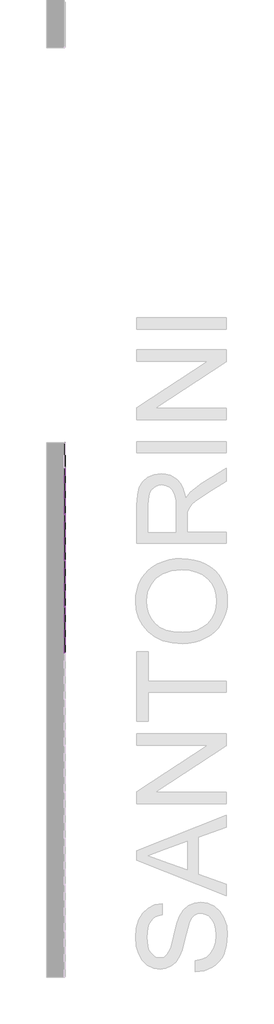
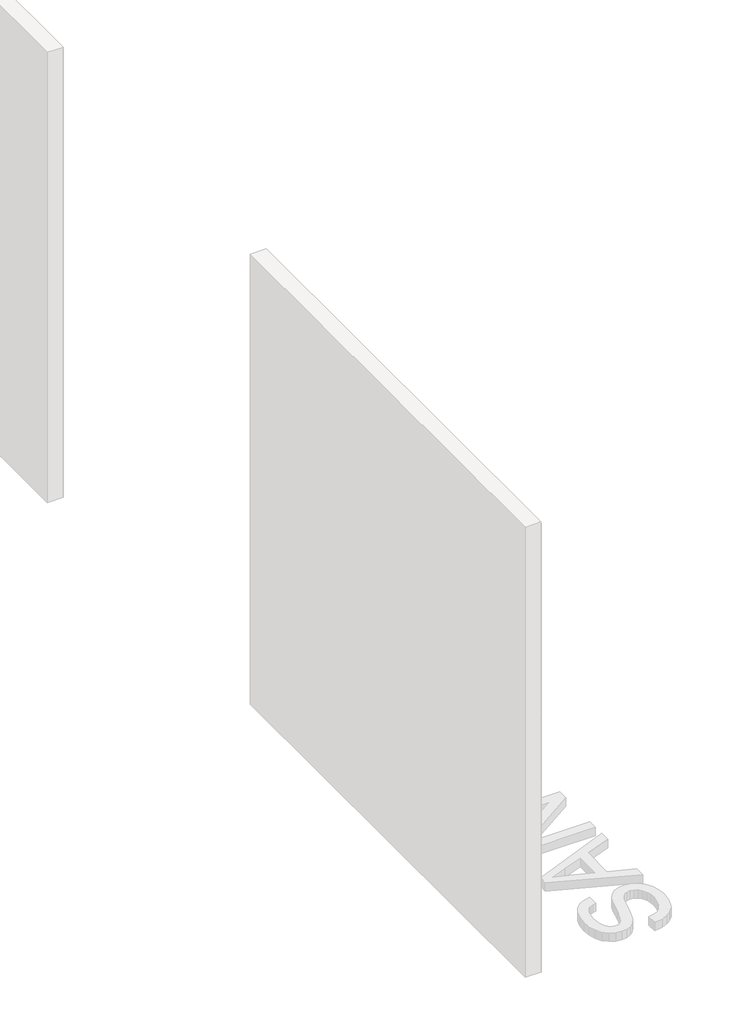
# One storey, part 32 of 45: 147 proxies.
"""IFC4 building model written with IfcOpenShell, lengths in millimetres."""

from ifc_helpers import new_model, si_unit, origin, place, context, project, spatial, transform, mapped, element, save
from components import generic_models_ab0f2c30, generic_models_1527efce

model = new_model("IFC4")

# Units and contexts
model_context = context("Model", 3, world=origin())
ifc_project = project(units=[si_unit("LENGTHUNIT", "METRE", prefix="MILLI")], contexts=[model_context])

# Site, building, storey
site = spatial("IfcSite", under=ifc_project)
building = spatial("IfcBuilding", under=site)
storey = spatial("IfcBuildingStorey", under=building, Name="PORTOBELLO - SHOWROOM", Elevation=0.0)

# Proxies
placement = place(None, origin())
generic_models_shape = generic_models_ab0f2c30(model_context)
element("IfcBuildingElementProxy", 1, Name="PBSHOP - HORIZONTES SANTORINI 6,5X23 : SANTORINI", ObjectType="PBSHOP - HORIZONTES SANTORINI 6,5X23 : SANTORINI", at=placement, inside=storey, context=model_context, shape_type="MappedRepresentation", body=[
    mapped(generic_models_shape, transform((69111.8826867, 12364.0312463, 517.5), x_axis=(0.0, 0.0, 1.0), y_axis=(0.0, -1.0, 0.0), z_axis=(1.0, 0.0, 0.0))),
])
element("IfcBuildingElementProxy", 2, Name="PBSHOP - HORIZONTES SANTORINI 6,5X23 : SANTORINI", ObjectType="PBSHOP - HORIZONTES SANTORINI 6,5X23 : SANTORINI", at=placement, inside=storey, context=model_context, shape_type="MappedRepresentation", body=[
    mapped(generic_models_shape, transform((69111.8826867, 12598.0312463, 517.5), x_axis=(0.0, 0.0, 1.0), y_axis=(0.0, -1.0, 0.0), z_axis=(1.0, 0.0, 0.0))),
])
element("IfcBuildingElementProxy", 3, Name="PBSHOP - HORIZONTES SANTORINI 6,5X23 : SANTORINI", ObjectType="PBSHOP - HORIZONTES SANTORINI 6,5X23 : SANTORINI", at=placement, inside=storey, context=model_context, shape_type="MappedRepresentation", body=[
    mapped(generic_models_shape, transform((69111.8826867, 12832.0312463, 517.5), x_axis=(0.0, 0.0, 1.0), y_axis=(0.0, -1.0, 0.0), z_axis=(1.0, 0.0, 0.0))),
])
element("IfcBuildingElementProxy", 4, Name="PBSHOP - HORIZONTES SANTORINI 6,5X23 : SANTORINI", ObjectType="PBSHOP - HORIZONTES SANTORINI 6,5X23 : SANTORINI", at=placement, inside=storey, context=model_context, shape_type="MappedRepresentation", body=[
    mapped(generic_models_shape, transform((69111.8826867, 12130.0312463, 586.5), x_axis=(0.0, 0.0, 1.0), y_axis=(0.0, -1.0, 0.0), z_axis=(1.0, 0.0, 0.0))),
])
element("IfcBuildingElementProxy", 5, Name="PBSHOP - HORIZONTES SANTORINI 6,5X23 : SANTORINI", ObjectType="PBSHOP - HORIZONTES SANTORINI 6,5X23 : SANTORINI", at=placement, inside=storey, context=model_context, shape_type="MappedRepresentation", body=[
    mapped(generic_models_shape, transform((69111.8826867, 12364.0312463, 586.5), x_axis=(0.0, 0.0, 1.0), y_axis=(0.0, -1.0, 0.0), z_axis=(1.0, 0.0, 0.0))),
])
element("IfcBuildingElementProxy", 6, Name="PBSHOP - HORIZONTES SANTORINI 6,5X23 : SANTORINI", ObjectType="PBSHOP - HORIZONTES SANTORINI 6,5X23 : SANTORINI", at=placement, inside=storey, context=model_context, shape_type="MappedRepresentation", body=[
    mapped(generic_models_shape, transform((69111.8826867, 12598.0312463, 586.5), x_axis=(0.0, 0.0, 1.0), y_axis=(0.0, -1.0, 0.0), z_axis=(1.0, 0.0, 0.0))),
])
element("IfcBuildingElementProxy", 7, Name="PBSHOP - HORIZONTES SANTORINI 6,5X23 : SANTORINI", ObjectType="PBSHOP - HORIZONTES SANTORINI 6,5X23 : SANTORINI", at=placement, inside=storey, context=model_context, shape_type="MappedRepresentation", body=[
    mapped(generic_models_shape, transform((69111.8826867, 12832.0312463, 586.5), x_axis=(0.0, 0.0, 1.0), y_axis=(0.0, -1.0, 0.0), z_axis=(1.0, 0.0, 0.0))),
])
element("IfcBuildingElementProxy", 8, Name="PBSHOP - HORIZONTES SANTORINI 6,5X23 : SANTORINI", ObjectType="PBSHOP - HORIZONTES SANTORINI 6,5X23 : SANTORINI", at=placement, inside=storey, context=model_context, shape_type="MappedRepresentation", body=[
    mapped(generic_models_shape, transform((69111.8826867, 12130.0312463, 655.5), x_axis=(0.0, 0.0, 1.0), y_axis=(0.0, -1.0, 0.0), z_axis=(1.0, 0.0, 0.0))),
])
element("IfcBuildingElementProxy", 9, Name="PBSHOP - HORIZONTES SANTORINI 6,5X23 : SANTORINI", ObjectType="PBSHOP - HORIZONTES SANTORINI 6,5X23 : SANTORINI", at=placement, inside=storey, context=model_context, shape_type="MappedRepresentation", body=[
    mapped(generic_models_shape, transform((69111.8826867, 12364.0312463, 655.5), x_axis=(0.0, 0.0, 1.0), y_axis=(0.0, -1.0, 0.0), z_axis=(1.0, 0.0, 0.0))),
])
element("IfcBuildingElementProxy", 10, Name="PBSHOP - HORIZONTES SANTORINI 6,5X23 : SANTORINI", ObjectType="PBSHOP - HORIZONTES SANTORINI 6,5X23 : SANTORINI", at=placement, inside=storey, context=model_context, shape_type="MappedRepresentation", body=[
    mapped(generic_models_shape, transform((69111.8826867, 12598.0312463, 655.5), x_axis=(0.0, 0.0, 1.0), y_axis=(0.0, -1.0, 0.0), z_axis=(1.0, 0.0, 0.0))),
])
element("IfcBuildingElementProxy", 11, Name="PBSHOP - HORIZONTES SANTORINI 6,5X23 : SANTORINI", ObjectType="PBSHOP - HORIZONTES SANTORINI 6,5X23 : SANTORINI", at=placement, inside=storey, context=model_context, shape_type="MappedRepresentation", body=[
    mapped(generic_models_shape, transform((69111.8826867, 12832.0312463, 655.5), x_axis=(0.0, 0.0, 1.0), y_axis=(0.0, -1.0, 0.0), z_axis=(1.0, 0.0, 0.0))),
])
element("IfcBuildingElementProxy", 12, Name="PBSHOP - HORIZONTES SANTORINI 6,5X23 : SANTORINI", ObjectType="PBSHOP - HORIZONTES SANTORINI 6,5X23 : SANTORINI", at=placement, inside=storey, context=model_context, shape_type="MappedRepresentation", body=[
    mapped(generic_models_shape, transform((69111.8826867, 12130.0312463, 724.5), x_axis=(0.0, 0.0, 1.0), y_axis=(0.0, -1.0, 0.0), z_axis=(1.0, 0.0, 0.0))),
])
element("IfcBuildingElementProxy", 13, Name="PBSHOP - HORIZONTES SANTORINI 6,5X23 : SANTORINI", ObjectType="PBSHOP - HORIZONTES SANTORINI 6,5X23 : SANTORINI", at=placement, inside=storey, context=model_context, shape_type="MappedRepresentation", body=[
    mapped(generic_models_shape, transform((69111.8826867, 12364.0312463, 724.5), x_axis=(0.0, 0.0, 1.0), y_axis=(0.0, -1.0, 0.0), z_axis=(1.0, 0.0, 0.0))),
])
element("IfcBuildingElementProxy", 14, Name="PBSHOP - HORIZONTES SANTORINI 6,5X23 : SANTORINI", ObjectType="PBSHOP - HORIZONTES SANTORINI 6,5X23 : SANTORINI", at=placement, inside=storey, context=model_context, shape_type="MappedRepresentation", body=[
    mapped(generic_models_shape, transform((69111.8826867, 12598.0312463, 724.5), x_axis=(0.0, 0.0, 1.0), y_axis=(0.0, -1.0, 0.0), z_axis=(1.0, 0.0, 0.0))),
])
element("IfcBuildingElementProxy", 15, Name="PBSHOP - HORIZONTES SANTORINI 6,5X23 : SANTORINI", ObjectType="PBSHOP - HORIZONTES SANTORINI 6,5X23 : SANTORINI", at=placement, inside=storey, context=model_context, shape_type="MappedRepresentation", body=[
    mapped(generic_models_shape, transform((69111.8826867, 12832.0312463, 724.5), x_axis=(0.0, 0.0, 1.0), y_axis=(0.0, -1.0, 0.0), z_axis=(1.0, 0.0, 0.0))),
])
element("IfcBuildingElementProxy", 16, Name="PBSHOP - HORIZONTES SANTORINI 6,5X23 : SANTORINI", ObjectType="PBSHOP - HORIZONTES SANTORINI 6,5X23 : SANTORINI", at=placement, inside=storey, context=model_context, shape_type="MappedRepresentation", body=[
    mapped(generic_models_shape, transform((69111.8826867, 12130.0312463, 793.5), x_axis=(0.0, 0.0, 1.0), y_axis=(0.0, -1.0, 0.0), z_axis=(1.0, 0.0, 0.0))),
])
element("IfcBuildingElementProxy", 17, Name="PBSHOP - HORIZONTES SANTORINI 6,5X23 : SANTORINI", ObjectType="PBSHOP - HORIZONTES SANTORINI 6,5X23 : SANTORINI", at=placement, inside=storey, context=model_context, shape_type="MappedRepresentation", body=[
    mapped(generic_models_shape, transform((69111.8826867, 12364.0312463, 793.5), x_axis=(0.0, 0.0, 1.0), y_axis=(0.0, -1.0, 0.0), z_axis=(1.0, 0.0, 0.0))),
])
element("IfcBuildingElementProxy", 18, Name="PBSHOP - HORIZONTES SANTORINI 6,5X23 : SANTORINI", ObjectType="PBSHOP - HORIZONTES SANTORINI 6,5X23 : SANTORINI", at=placement, inside=storey, context=model_context, shape_type="MappedRepresentation", body=[
    mapped(generic_models_shape, transform((69111.8826867, 12598.0312463, 793.5), x_axis=(0.0, 0.0, 1.0), y_axis=(0.0, -1.0, 0.0), z_axis=(1.0, 0.0, 0.0))),
])
element("IfcBuildingElementProxy", 19, Name="PBSHOP - HORIZONTES SANTORINI 6,5X23 : SANTORINI", ObjectType="PBSHOP - HORIZONTES SANTORINI 6,5X23 : SANTORINI", at=placement, inside=storey, context=model_context, shape_type="MappedRepresentation", body=[
    mapped(generic_models_shape, transform((69111.8826867, 12832.0312463, 793.5), x_axis=(0.0, 0.0, 1.0), y_axis=(0.0, -1.0, 0.0), z_axis=(1.0, 0.0, 0.0))),
])
element("IfcBuildingElementProxy", 20, Name="PBSHOP - HORIZONTES SANTORINI 6,5X23 : SANTORINI", ObjectType="PBSHOP - HORIZONTES SANTORINI 6,5X23 : SANTORINI", at=placement, inside=storey, context=model_context, shape_type="MappedRepresentation", body=[
    mapped(generic_models_shape, transform((69111.8826867, 12130.0312463, 862.5), x_axis=(0.0, 0.0, 1.0), y_axis=(0.0, -1.0, 0.0), z_axis=(1.0, 0.0, 0.0))),
])
element("IfcBuildingElementProxy", 21, Name="PBSHOP - HORIZONTES SANTORINI 6,5X23 : SANTORINI", ObjectType="PBSHOP - HORIZONTES SANTORINI 6,5X23 : SANTORINI", at=placement, inside=storey, context=model_context, shape_type="MappedRepresentation", body=[
    mapped(generic_models_shape, transform((69111.8826867, 12364.0312463, 862.5), x_axis=(0.0, 0.0, 1.0), y_axis=(0.0, -1.0, 0.0), z_axis=(1.0, 0.0, 0.0))),
])
element("IfcBuildingElementProxy", 22, Name="PBSHOP - HORIZONTES SANTORINI 6,5X23 : SANTORINI", ObjectType="PBSHOP - HORIZONTES SANTORINI 6,5X23 : SANTORINI", at=placement, inside=storey, context=model_context, shape_type="MappedRepresentation", body=[
    mapped(generic_models_shape, transform((69111.8826867, 12598.0312463, 862.5), x_axis=(0.0, 0.0, 1.0), y_axis=(0.0, -1.0, 0.0), z_axis=(1.0, 0.0, 0.0))),
])
element("IfcBuildingElementProxy", 23, Name="PBSHOP - HORIZONTES SANTORINI 6,5X23 : SANTORINI", ObjectType="PBSHOP - HORIZONTES SANTORINI 6,5X23 : SANTORINI", at=placement, inside=storey, context=model_context, shape_type="MappedRepresentation", body=[
    mapped(generic_models_shape, transform((69111.8826867, 12832.0312463, 862.5), x_axis=(0.0, 0.0, 1.0), y_axis=(0.0, -1.0, 0.0), z_axis=(1.0, 0.0, 0.0))),
])
element("IfcBuildingElementProxy", 24, Name="PBSHOP - HORIZONTES SANTORINI 6,5X23 : SANTORINI", ObjectType="PBSHOP - HORIZONTES SANTORINI 6,5X23 : SANTORINI", at=placement, inside=storey, context=model_context, shape_type="MappedRepresentation", body=[
    mapped(generic_models_shape, transform((69111.8826867, 12130.0312463, 931.5), x_axis=(0.0, 0.0, 1.0), y_axis=(0.0, -1.0, 0.0), z_axis=(1.0, 0.0, 0.0))),
])
element("IfcBuildingElementProxy", 25, Name="PBSHOP - HORIZONTES SANTORINI 6,5X23 : SANTORINI", ObjectType="PBSHOP - HORIZONTES SANTORINI 6,5X23 : SANTORINI", at=placement, inside=storey, context=model_context, shape_type="MappedRepresentation", body=[
    mapped(generic_models_shape, transform((69111.8826867, 12364.0312463, 931.5), x_axis=(0.0, 0.0, 1.0), y_axis=(0.0, -1.0, 0.0), z_axis=(1.0, 0.0, 0.0))),
])
element("IfcBuildingElementProxy", 26, Name="PBSHOP - HORIZONTES SANTORINI 6,5X23 : SANTORINI", ObjectType="PBSHOP - HORIZONTES SANTORINI 6,5X23 : SANTORINI", at=placement, inside=storey, context=model_context, shape_type="MappedRepresentation", body=[
    mapped(generic_models_shape, transform((69111.8826867, 12598.0312463, 931.5), x_axis=(0.0, 0.0, 1.0), y_axis=(0.0, -1.0, 0.0), z_axis=(1.0, 0.0, 0.0))),
])
element("IfcBuildingElementProxy", 27, Name="PBSHOP - HORIZONTES SANTORINI 6,5X23 : SANTORINI", ObjectType="PBSHOP - HORIZONTES SANTORINI 6,5X23 : SANTORINI", at=placement, inside=storey, context=model_context, shape_type="MappedRepresentation", body=[
    mapped(generic_models_shape, transform((69111.8826867, 12832.0312463, 931.5), x_axis=(0.0, 0.0, 1.0), y_axis=(0.0, -1.0, 0.0), z_axis=(1.0, 0.0, 0.0))),
])
element("IfcBuildingElementProxy", 28, Name="PBSHOP - HORIZONTES SANTORINI 6,5X23 : SANTORINI", ObjectType="PBSHOP - HORIZONTES SANTORINI 6,5X23 : SANTORINI", at=placement, inside=storey, context=model_context, shape_type="MappedRepresentation", body=[
    mapped(generic_models_shape, transform((69111.8826867, 12130.0312463, 1000.5), x_axis=(0.0, 0.0, 1.0), y_axis=(0.0, -1.0, 0.0), z_axis=(1.0, 0.0, 0.0))),
])
element("IfcBuildingElementProxy", 29, Name="PBSHOP - HORIZONTES SANTORINI 6,5X23 : SANTORINI", ObjectType="PBSHOP - HORIZONTES SANTORINI 6,5X23 : SANTORINI", at=placement, inside=storey, context=model_context, shape_type="MappedRepresentation", body=[
    mapped(generic_models_shape, transform((69111.8826867, 12364.0312463, 1000.5), x_axis=(0.0, 0.0, 1.0), y_axis=(0.0, -1.0, 0.0), z_axis=(1.0, 0.0, 0.0))),
])
element("IfcBuildingElementProxy", 30, Name="PBSHOP - HORIZONTES SANTORINI 6,5X23 : SANTORINI", ObjectType="PBSHOP - HORIZONTES SANTORINI 6,5X23 : SANTORINI", at=placement, inside=storey, context=model_context, shape_type="MappedRepresentation", body=[
    mapped(generic_models_shape, transform((69111.8826867, 12598.0312463, 1000.5), x_axis=(0.0, 0.0, 1.0), y_axis=(0.0, -1.0, 0.0), z_axis=(1.0, 0.0, 0.0))),
])
element("IfcBuildingElementProxy", 31, Name="PBSHOP - HORIZONTES SANTORINI 6,5X23 : SANTORINI", ObjectType="PBSHOP - HORIZONTES SANTORINI 6,5X23 : SANTORINI", at=placement, inside=storey, context=model_context, shape_type="MappedRepresentation", body=[
    mapped(generic_models_shape, transform((69111.8826867, 12832.0312463, 1000.5), x_axis=(0.0, 0.0, 1.0), y_axis=(0.0, -1.0, 0.0), z_axis=(1.0, 0.0, 0.0))),
])
element("IfcBuildingElementProxy", 32, Name="PBSHOP - HORIZONTES SANTORINI 6,5X23 : SANTORINI", ObjectType="PBSHOP - HORIZONTES SANTORINI 6,5X23 : SANTORINI", at=placement, inside=storey, context=model_context, shape_type="MappedRepresentation", body=[
    mapped(generic_models_shape, transform((69111.8826867, 12130.0312463, 1069.5), x_axis=(0.0, 0.0, 1.0), y_axis=(0.0, -1.0, 0.0), z_axis=(1.0, 0.0, 0.0))),
])
element("IfcBuildingElementProxy", 33, Name="PBSHOP - HORIZONTES SANTORINI 6,5X23 : SANTORINI", ObjectType="PBSHOP - HORIZONTES SANTORINI 6,5X23 : SANTORINI", at=placement, inside=storey, context=model_context, shape_type="MappedRepresentation", body=[
    mapped(generic_models_shape, transform((69111.8826867, 12364.0312463, 1069.5), x_axis=(0.0, 0.0, 1.0), y_axis=(0.0, -1.0, 0.0), z_axis=(1.0, 0.0, 0.0))),
])
element("IfcBuildingElementProxy", 34, Name="PBSHOP - HORIZONTES SANTORINI 6,5X23 : SANTORINI", ObjectType="PBSHOP - HORIZONTES SANTORINI 6,5X23 : SANTORINI", at=placement, inside=storey, context=model_context, shape_type="MappedRepresentation", body=[
    mapped(generic_models_shape, transform((69111.8826867, 12598.0312463, 1069.5), x_axis=(0.0, 0.0, 1.0), y_axis=(0.0, -1.0, 0.0), z_axis=(1.0, 0.0, 0.0))),
])
element("IfcBuildingElementProxy", 35, Name="PBSHOP - HORIZONTES SANTORINI 6,5X23 : SANTORINI", ObjectType="PBSHOP - HORIZONTES SANTORINI 6,5X23 : SANTORINI", at=placement, inside=storey, context=model_context, shape_type="MappedRepresentation", body=[
    mapped(generic_models_shape, transform((69111.8826867, 12832.0312463, 1069.5), x_axis=(0.0, 0.0, 1.0), y_axis=(0.0, -1.0, 0.0), z_axis=(1.0, 0.0, 0.0))),
])
element("IfcBuildingElementProxy", 36, Name="PBSHOP - HORIZONTES SANTORINI 6,5X23 : SANTORINI", ObjectType="PBSHOP - HORIZONTES SANTORINI 6,5X23 : SANTORINI", at=placement, inside=storey, context=model_context, shape_type="MappedRepresentation", body=[
    mapped(generic_models_shape, transform((69111.8826867, 12130.0312463, 1138.5), x_axis=(0.0, 0.0, 1.0), y_axis=(0.0, -1.0, 0.0), z_axis=(1.0, 0.0, 0.0))),
])
element("IfcBuildingElementProxy", 37, Name="PBSHOP - HORIZONTES SANTORINI 6,5X23 : SANTORINI", ObjectType="PBSHOP - HORIZONTES SANTORINI 6,5X23 : SANTORINI", at=placement, inside=storey, context=model_context, shape_type="MappedRepresentation", body=[
    mapped(generic_models_shape, transform((69111.8826867, 12364.0312463, 1138.5), x_axis=(0.0, 0.0, 1.0), y_axis=(0.0, -1.0, 0.0), z_axis=(1.0, 0.0, 0.0))),
])
element("IfcBuildingElementProxy", 38, Name="PBSHOP - HORIZONTES SANTORINI 6,5X23 : SANTORINI", ObjectType="PBSHOP - HORIZONTES SANTORINI 6,5X23 : SANTORINI", at=placement, inside=storey, context=model_context, shape_type="MappedRepresentation", body=[
    mapped(generic_models_shape, transform((69111.8826867, 12598.0312463, 1138.5), x_axis=(0.0, 0.0, 1.0), y_axis=(0.0, -1.0, 0.0), z_axis=(1.0, 0.0, 0.0))),
])
element("IfcBuildingElementProxy", 39, Name="PBSHOP - HORIZONTES SANTORINI 6,5X23 : SANTORINI", ObjectType="PBSHOP - HORIZONTES SANTORINI 6,5X23 : SANTORINI", at=placement, inside=storey, context=model_context, shape_type="MappedRepresentation", body=[
    mapped(generic_models_shape, transform((69111.8826867, 12832.0312463, 1138.5), x_axis=(0.0, 0.0, 1.0), y_axis=(0.0, -1.0, 0.0), z_axis=(1.0, 0.0, 0.0))),
])
element("IfcBuildingElementProxy", 40, Name="PBSHOP - HORIZONTES SANTORINI 6,5X23 : SANTORINI", ObjectType="PBSHOP - HORIZONTES SANTORINI 6,5X23 : SANTORINI", at=placement, inside=storey, context=model_context, shape_type="MappedRepresentation", body=[
    mapped(generic_models_shape, transform((69111.8826867, 12130.0312463, 1207.5), x_axis=(0.0, 0.0, 1.0), y_axis=(0.0, -1.0, 0.0), z_axis=(1.0, 0.0, 0.0))),
])
element("IfcBuildingElementProxy", 41, Name="PBSHOP - HORIZONTES SANTORINI 6,5X23 : SANTORINI", ObjectType="PBSHOP - HORIZONTES SANTORINI 6,5X23 : SANTORINI", at=placement, inside=storey, context=model_context, shape_type="MappedRepresentation", body=[
    mapped(generic_models_shape, transform((69111.8826867, 12364.0312463, 1207.5), x_axis=(0.0, 0.0, 1.0), y_axis=(0.0, -1.0, 0.0), z_axis=(1.0, 0.0, 0.0))),
])
element("IfcBuildingElementProxy", 42, Name="PBSHOP - HORIZONTES SANTORINI 6,5X23 : SANTORINI", ObjectType="PBSHOP - HORIZONTES SANTORINI 6,5X23 : SANTORINI", at=placement, inside=storey, context=model_context, shape_type="MappedRepresentation", body=[
    mapped(generic_models_shape, transform((69111.8826867, 12598.0312463, 1207.5), x_axis=(0.0, 0.0, 1.0), y_axis=(0.0, -1.0, 0.0), z_axis=(1.0, 0.0, 0.0))),
])
element("IfcBuildingElementProxy", 43, Name="PBSHOP - HORIZONTES SANTORINI 6,5X23 : SANTORINI", ObjectType="PBSHOP - HORIZONTES SANTORINI 6,5X23 : SANTORINI", at=placement, inside=storey, context=model_context, shape_type="MappedRepresentation", body=[
    mapped(generic_models_shape, transform((69111.8826867, 12832.0312463, 1207.5), x_axis=(0.0, 0.0, 1.0), y_axis=(0.0, -1.0, 0.0), z_axis=(1.0, 0.0, 0.0))),
])
element("IfcBuildingElementProxy", 44, Name="PBSHOP - HORIZONTES SANTORINI 6,5X23 : SANTORINI", ObjectType="PBSHOP - HORIZONTES SANTORINI 6,5X23 : SANTORINI", at=placement, inside=storey, context=model_context, shape_type="MappedRepresentation", body=[
    mapped(generic_models_shape, transform((69111.8826867, 12130.0312463, 1276.5), x_axis=(0.0, 0.0, 1.0), y_axis=(0.0, -1.0, 0.0), z_axis=(1.0, 0.0, 0.0))),
])
element("IfcBuildingElementProxy", 45, Name="PBSHOP - HORIZONTES SANTORINI 6,5X23 : SANTORINI", ObjectType="PBSHOP - HORIZONTES SANTORINI 6,5X23 : SANTORINI", at=placement, inside=storey, context=model_context, shape_type="MappedRepresentation", body=[
    mapped(generic_models_shape, transform((69111.8826867, 12364.0312463, 1276.5), x_axis=(0.0, 0.0, 1.0), y_axis=(0.0, -1.0, 0.0), z_axis=(1.0, 0.0, 0.0))),
])
element("IfcBuildingElementProxy", 46, Name="PBSHOP - HORIZONTES SANTORINI 6,5X23 : SANTORINI", ObjectType="PBSHOP - HORIZONTES SANTORINI 6,5X23 : SANTORINI", at=placement, inside=storey, context=model_context, shape_type="MappedRepresentation", body=[
    mapped(generic_models_shape, transform((69111.8826867, 12598.0312463, 1276.5), x_axis=(0.0, 0.0, 1.0), y_axis=(0.0, -1.0, 0.0), z_axis=(1.0, 0.0, 0.0))),
])
element("IfcBuildingElementProxy", 47, Name="PBSHOP - HORIZONTES SANTORINI 6,5X23 : SANTORINI", ObjectType="PBSHOP - HORIZONTES SANTORINI 6,5X23 : SANTORINI", at=placement, inside=storey, context=model_context, shape_type="MappedRepresentation", body=[
    mapped(generic_models_shape, transform((69111.8826867, 12832.0312463, 1276.5), x_axis=(0.0, 0.0, 1.0), y_axis=(0.0, -1.0, 0.0), z_axis=(1.0, 0.0, 0.0))),
])
element("IfcBuildingElementProxy", 48, Name="PBSHOP - HORIZONTES SANTORINI 6,5X23 : SANTORINI", ObjectType="PBSHOP - HORIZONTES SANTORINI 6,5X23 : SANTORINI", at=placement, inside=storey, context=model_context, shape_type="MappedRepresentation", body=[
    mapped(generic_models_shape, transform((69111.8826867, 12130.0312463, 1345.5), x_axis=(0.0, 0.0, 1.0), y_axis=(0.0, -1.0, 0.0), z_axis=(1.0, 0.0, 0.0))),
])
element("IfcBuildingElementProxy", 49, Name="PBSHOP - HORIZONTES SANTORINI 6,5X23 : SANTORINI", ObjectType="PBSHOP - HORIZONTES SANTORINI 6,5X23 : SANTORINI", at=placement, inside=storey, context=model_context, shape_type="MappedRepresentation", body=[
    mapped(generic_models_shape, transform((69111.8826867, 12364.0312463, 1345.5), x_axis=(0.0, 0.0, 1.0), y_axis=(0.0, -1.0, 0.0), z_axis=(1.0, 0.0, 0.0))),
])
element("IfcBuildingElementProxy", 50, Name="PBSHOP - HORIZONTES SANTORINI 6,5X23 : SANTORINI", ObjectType="PBSHOP - HORIZONTES SANTORINI 6,5X23 : SANTORINI", at=placement, inside=storey, context=model_context, shape_type="MappedRepresentation", body=[
    mapped(generic_models_shape, transform((69111.8826867, 12598.0312463, 1345.5), x_axis=(0.0, 0.0, 1.0), y_axis=(0.0, -1.0, 0.0), z_axis=(1.0, 0.0, 0.0))),
])
element("IfcBuildingElementProxy", 51, Name="PBSHOP - HORIZONTES SANTORINI 6,5X23 : SANTORINI", ObjectType="PBSHOP - HORIZONTES SANTORINI 6,5X23 : SANTORINI", at=placement, inside=storey, context=model_context, shape_type="MappedRepresentation", body=[
    mapped(generic_models_shape, transform((69111.8826867, 12832.0312463, 1345.5), x_axis=(0.0, 0.0, 1.0), y_axis=(0.0, -1.0, 0.0), z_axis=(1.0, 0.0, 0.0))),
])
element("IfcBuildingElementProxy", 52, Name="PBSHOP - HORIZONTES SANTORINI 6,5X23 : SANTORINI", ObjectType="PBSHOP - HORIZONTES SANTORINI 6,5X23 : SANTORINI", at=placement, inside=storey, context=model_context, shape_type="MappedRepresentation", body=[
    mapped(generic_models_shape, transform((69111.8826867, 12130.0312463, 1414.5), x_axis=(0.0, 0.0, 1.0), y_axis=(0.0, -1.0, 0.0), z_axis=(1.0, 0.0, 0.0))),
])
element("IfcBuildingElementProxy", 53, Name="PBSHOP - HORIZONTES SANTORINI 6,5X23 : SANTORINI", ObjectType="PBSHOP - HORIZONTES SANTORINI 6,5X23 : SANTORINI", at=placement, inside=storey, context=model_context, shape_type="MappedRepresentation", body=[
    mapped(generic_models_shape, transform((69111.8826867, 12364.0312463, 1414.5), x_axis=(0.0, 0.0, 1.0), y_axis=(0.0, -1.0, 0.0), z_axis=(1.0, 0.0, 0.0))),
])
element("IfcBuildingElementProxy", 54, Name="PBSHOP - HORIZONTES SANTORINI 6,5X23 : SANTORINI", ObjectType="PBSHOP - HORIZONTES SANTORINI 6,5X23 : SANTORINI", at=placement, inside=storey, context=model_context, shape_type="MappedRepresentation", body=[
    mapped(generic_models_shape, transform((69111.8826867, 12598.0312463, 1414.5), x_axis=(0.0, 0.0, 1.0), y_axis=(0.0, -1.0, 0.0), z_axis=(1.0, 0.0, 0.0))),
])
element("IfcBuildingElementProxy", 55, Name="PBSHOP - HORIZONTES SANTORINI 6,5X23 : SANTORINI", ObjectType="PBSHOP - HORIZONTES SANTORINI 6,5X23 : SANTORINI", at=placement, inside=storey, context=model_context, shape_type="MappedRepresentation", body=[
    mapped(generic_models_shape, transform((69111.8826867, 12832.0312463, 1414.5), x_axis=(0.0, 0.0, 1.0), y_axis=(0.0, -1.0, 0.0), z_axis=(1.0, 0.0, 0.0))),
])
element("IfcBuildingElementProxy", 56, Name="PBSHOP - HORIZONTES SANTORINI 6,5X23 : SANTORINI", ObjectType="PBSHOP - HORIZONTES SANTORINI 6,5X23 : SANTORINI", at=placement, inside=storey, context=model_context, shape_type="MappedRepresentation", body=[
    mapped(generic_models_shape, transform((69111.8826867, 12130.0312463, 1483.5), x_axis=(0.0, 0.0, 1.0), y_axis=(0.0, -1.0, 0.0), z_axis=(1.0, 0.0, 0.0))),
])
element("IfcBuildingElementProxy", 57, Name="PBSHOP - HORIZONTES SANTORINI 6,5X23 : SANTORINI", ObjectType="PBSHOP - HORIZONTES SANTORINI 6,5X23 : SANTORINI", at=placement, inside=storey, context=model_context, shape_type="MappedRepresentation", body=[
    mapped(generic_models_shape, transform((69111.8826867, 12364.0312463, 1483.5), x_axis=(0.0, 0.0, 1.0), y_axis=(0.0, -1.0, 0.0), z_axis=(1.0, 0.0, 0.0))),
])
element("IfcBuildingElementProxy", 58, Name="PBSHOP - HORIZONTES SANTORINI 6,5X23 : SANTORINI", ObjectType="PBSHOP - HORIZONTES SANTORINI 6,5X23 : SANTORINI", at=placement, inside=storey, context=model_context, shape_type="MappedRepresentation", body=[
    mapped(generic_models_shape, transform((69111.8826867, 12598.0312463, 1483.5), x_axis=(0.0, 0.0, 1.0), y_axis=(0.0, -1.0, 0.0), z_axis=(1.0, 0.0, 0.0))),
])
element("IfcBuildingElementProxy", 59, Name="PBSHOP - HORIZONTES SANTORINI 6,5X23 : SANTORINI", ObjectType="PBSHOP - HORIZONTES SANTORINI 6,5X23 : SANTORINI", at=placement, inside=storey, context=model_context, shape_type="MappedRepresentation", body=[
    mapped(generic_models_shape, transform((69111.8826867, 12832.0312463, 1483.5), x_axis=(0.0, 0.0, 1.0), y_axis=(0.0, -1.0, 0.0), z_axis=(1.0, 0.0, 0.0))),
])
element("IfcBuildingElementProxy", 60, Name="PBSHOP - HORIZONTES SANTORINI 6,5X23 : SANTORINI", ObjectType="PBSHOP - HORIZONTES SANTORINI 6,5X23 : SANTORINI", at=placement, inside=storey, context=model_context, shape_type="MappedRepresentation", body=[
    mapped(generic_models_shape, transform((69111.8826867, 12130.0312463, 1552.5), x_axis=(0.0, 0.0, 1.0), y_axis=(0.0, -1.0, 0.0), z_axis=(1.0, 0.0, 0.0))),
])
element("IfcBuildingElementProxy", 61, Name="PBSHOP - HORIZONTES SANTORINI 6,5X23 : SANTORINI", ObjectType="PBSHOP - HORIZONTES SANTORINI 6,5X23 : SANTORINI", at=placement, inside=storey, context=model_context, shape_type="MappedRepresentation", body=[
    mapped(generic_models_shape, transform((69111.8826867, 12364.0312463, 1552.5), x_axis=(0.0, 0.0, 1.0), y_axis=(0.0, -1.0, 0.0), z_axis=(1.0, 0.0, 0.0))),
])
element("IfcBuildingElementProxy", 62, Name="PBSHOP - HORIZONTES SANTORINI 6,5X23 : SANTORINI", ObjectType="PBSHOP - HORIZONTES SANTORINI 6,5X23 : SANTORINI", at=placement, inside=storey, context=model_context, shape_type="MappedRepresentation", body=[
    mapped(generic_models_shape, transform((69111.8826867, 12598.0312463, 1552.5), x_axis=(0.0, 0.0, 1.0), y_axis=(0.0, -1.0, 0.0), z_axis=(1.0, 0.0, 0.0))),
])
element("IfcBuildingElementProxy", 63, Name="PBSHOP - HORIZONTES SANTORINI 6,5X23 : SANTORINI", ObjectType="PBSHOP - HORIZONTES SANTORINI 6,5X23 : SANTORINI", at=placement, inside=storey, context=model_context, shape_type="MappedRepresentation", body=[
    mapped(generic_models_shape, transform((69111.8826867, 12832.0312463, 1552.5), x_axis=(0.0, 0.0, 1.0), y_axis=(0.0, -1.0, 0.0), z_axis=(1.0, 0.0, 0.0))),
])
element("IfcBuildingElementProxy", 64, Name="PBSHOP - HORIZONTES SANTORINI 6,5X23 : SANTORINI", ObjectType="PBSHOP - HORIZONTES SANTORINI 6,5X23 : SANTORINI", at=placement, inside=storey, context=model_context, shape_type="MappedRepresentation", body=[
    mapped(generic_models_shape, transform((69111.8826867, 12130.0312463, 1621.5), x_axis=(0.0, 0.0, 1.0), y_axis=(0.0, -1.0, 0.0), z_axis=(1.0, 0.0, 0.0))),
])
element("IfcBuildingElementProxy", 65, Name="PBSHOP - HORIZONTES SANTORINI 6,5X23 : SANTORINI", ObjectType="PBSHOP - HORIZONTES SANTORINI 6,5X23 : SANTORINI", at=placement, inside=storey, context=model_context, shape_type="MappedRepresentation", body=[
    mapped(generic_models_shape, transform((69111.8826867, 12364.0312463, 1621.5), x_axis=(0.0, 0.0, 1.0), y_axis=(0.0, -1.0, 0.0), z_axis=(1.0, 0.0, 0.0))),
])
element("IfcBuildingElementProxy", 66, Name="PBSHOP - HORIZONTES SANTORINI 6,5X23 : SANTORINI", ObjectType="PBSHOP - HORIZONTES SANTORINI 6,5X23 : SANTORINI", at=placement, inside=storey, context=model_context, shape_type="MappedRepresentation", body=[
    mapped(generic_models_shape, transform((69111.8826867, 12598.0312463, 1621.5), x_axis=(0.0, 0.0, 1.0), y_axis=(0.0, -1.0, 0.0), z_axis=(1.0, 0.0, 0.0))),
])
element("IfcBuildingElementProxy", 67, Name="PBSHOP - HORIZONTES SANTORINI 6,5X23 : SANTORINI", ObjectType="PBSHOP - HORIZONTES SANTORINI 6,5X23 : SANTORINI", at=placement, inside=storey, context=model_context, shape_type="MappedRepresentation", body=[
    mapped(generic_models_shape, transform((69111.8826867, 12832.0312463, 1621.5), x_axis=(0.0, 0.0, 1.0), y_axis=(0.0, -1.0, 0.0), z_axis=(1.0, 0.0, 0.0))),
])
element("IfcBuildingElementProxy", 68, Name="PBSHOP - HORIZONTES SANTORINI 6,5X23 : SANTORINI", ObjectType="PBSHOP - HORIZONTES SANTORINI 6,5X23 : SANTORINI", at=placement, inside=storey, context=model_context, shape_type="MappedRepresentation", body=[
    mapped(generic_models_shape, transform((69111.8826867, 12130.0312463, 1690.5), x_axis=(0.0, 0.0, 1.0), y_axis=(0.0, -1.0, 0.0), z_axis=(1.0, 0.0, 0.0))),
])
element("IfcBuildingElementProxy", 69, Name="PBSHOP - HORIZONTES SANTORINI 6,5X23 : SANTORINI", ObjectType="PBSHOP - HORIZONTES SANTORINI 6,5X23 : SANTORINI", at=placement, inside=storey, context=model_context, shape_type="MappedRepresentation", body=[
    mapped(generic_models_shape, transform((69111.8826867, 12364.0312463, 1690.5), x_axis=(0.0, 0.0, 1.0), y_axis=(0.0, -1.0, 0.0), z_axis=(1.0, 0.0, 0.0))),
])
element("IfcBuildingElementProxy", 70, Name="PBSHOP - HORIZONTES SANTORINI 6,5X23 : SANTORINI", ObjectType="PBSHOP - HORIZONTES SANTORINI 6,5X23 : SANTORINI", at=placement, inside=storey, context=model_context, shape_type="MappedRepresentation", body=[
    mapped(generic_models_shape, transform((69111.8826867, 12598.0312463, 1690.5), x_axis=(0.0, 0.0, 1.0), y_axis=(0.0, -1.0, 0.0), z_axis=(1.0, 0.0, 0.0))),
])
element("IfcBuildingElementProxy", 71, Name="PBSHOP - HORIZONTES SANTORINI 6,5X23 : SANTORINI", ObjectType="PBSHOP - HORIZONTES SANTORINI 6,5X23 : SANTORINI", at=placement, inside=storey, context=model_context, shape_type="MappedRepresentation", body=[
    mapped(generic_models_shape, transform((69111.8826867, 12832.0312463, 1690.5), x_axis=(0.0, 0.0, 1.0), y_axis=(0.0, -1.0, 0.0), z_axis=(1.0, 0.0, 0.0))),
])
element("IfcBuildingElementProxy", 72, Name="PBSHOP - HORIZONTES SANTORINI 6,5X23 : SANTORINI", ObjectType="PBSHOP - HORIZONTES SANTORINI 6,5X23 : SANTORINI", at=placement, inside=storey, context=model_context, shape_type="MappedRepresentation", body=[
    mapped(generic_models_shape, transform((69111.8826867, 12130.0312463, 1759.5), x_axis=(0.0, 0.0, 1.0), y_axis=(0.0, -1.0, 0.0), z_axis=(1.0, 0.0, 0.0))),
])
element("IfcBuildingElementProxy", 73, Name="PBSHOP - HORIZONTES SANTORINI 6,5X23 : SANTORINI", ObjectType="PBSHOP - HORIZONTES SANTORINI 6,5X23 : SANTORINI", at=placement, inside=storey, context=model_context, shape_type="MappedRepresentation", body=[
    mapped(generic_models_shape, transform((69111.8826867, 12364.0312463, 1759.5), x_axis=(0.0, 0.0, 1.0), y_axis=(0.0, -1.0, 0.0), z_axis=(1.0, 0.0, 0.0))),
])
element("IfcBuildingElementProxy", 74, Name="PBSHOP - HORIZONTES SANTORINI 6,5X23 : SANTORINI", ObjectType="PBSHOP - HORIZONTES SANTORINI 6,5X23 : SANTORINI", at=placement, inside=storey, context=model_context, shape_type="MappedRepresentation", body=[
    mapped(generic_models_shape, transform((69111.8826867, 12598.0312463, 1759.5), x_axis=(0.0, 0.0, 1.0), y_axis=(0.0, -1.0, 0.0), z_axis=(1.0, 0.0, 0.0))),
])
element("IfcBuildingElementProxy", 75, Name="PBSHOP - HORIZONTES SANTORINI 6,5X23 : SANTORINI", ObjectType="PBSHOP - HORIZONTES SANTORINI 6,5X23 : SANTORINI", at=placement, inside=storey, context=model_context, shape_type="MappedRepresentation", body=[
    mapped(generic_models_shape, transform((69111.8826867, 12832.0312463, 1759.5), x_axis=(0.0, 0.0, 1.0), y_axis=(0.0, -1.0, 0.0), z_axis=(1.0, 0.0, 0.0))),
])
element("IfcBuildingElementProxy", 76, Name="PBSHOP - HORIZONTES SANTORINI 6,5X23 : SANTORINI", ObjectType="PBSHOP - HORIZONTES SANTORINI 6,5X23 : SANTORINI", at=placement, inside=storey, context=model_context, shape_type="MappedRepresentation", body=[
    mapped(generic_models_shape, transform((69111.8826867, 12130.0312463, 1828.5), x_axis=(0.0, 0.0, 1.0), y_axis=(0.0, -1.0, 0.0), z_axis=(1.0, 0.0, 0.0))),
])
element("IfcBuildingElementProxy", 77, Name="PBSHOP - HORIZONTES SANTORINI 6,5X23 : SANTORINI", ObjectType="PBSHOP - HORIZONTES SANTORINI 6,5X23 : SANTORINI", at=placement, inside=storey, context=model_context, shape_type="MappedRepresentation", body=[
    mapped(generic_models_shape, transform((69111.8826867, 12364.0312463, 1828.5), x_axis=(0.0, 0.0, 1.0), y_axis=(0.0, -1.0, 0.0), z_axis=(1.0, 0.0, 0.0))),
])
element("IfcBuildingElementProxy", 78, Name="PBSHOP - HORIZONTES SANTORINI 6,5X23 : SANTORINI", ObjectType="PBSHOP - HORIZONTES SANTORINI 6,5X23 : SANTORINI", at=placement, inside=storey, context=model_context, shape_type="MappedRepresentation", body=[
    mapped(generic_models_shape, transform((69111.8826867, 12598.0312463, 1828.5), x_axis=(0.0, 0.0, 1.0), y_axis=(0.0, -1.0, 0.0), z_axis=(1.0, 0.0, 0.0))),
])
element("IfcBuildingElementProxy", 79, Name="PBSHOP - HORIZONTES SANTORINI 6,5X23 : SANTORINI", ObjectType="PBSHOP - HORIZONTES SANTORINI 6,5X23 : SANTORINI", at=placement, inside=storey, context=model_context, shape_type="MappedRepresentation", body=[
    mapped(generic_models_shape, transform((69111.8826867, 12832.0312463, 1828.5), x_axis=(0.0, 0.0, 1.0), y_axis=(0.0, -1.0, 0.0), z_axis=(1.0, 0.0, 0.0))),
])
element("IfcBuildingElementProxy", 80, Name="PBSHOP - HORIZONTES SANTORINI 6,5X23 : SANTORINI", ObjectType="PBSHOP - HORIZONTES SANTORINI 6,5X23 : SANTORINI", at=placement, inside=storey, context=model_context, shape_type="MappedRepresentation", body=[
    mapped(generic_models_shape, transform((69111.8826867, 12130.0312463, 1897.5), x_axis=(0.0, 0.0, 1.0), y_axis=(0.0, -1.0, 0.0), z_axis=(1.0, 0.0, 0.0))),
])
element("IfcBuildingElementProxy", 81, Name="PBSHOP - HORIZONTES SANTORINI 6,5X23 : SANTORINI", ObjectType="PBSHOP - HORIZONTES SANTORINI 6,5X23 : SANTORINI", at=placement, inside=storey, context=model_context, shape_type="MappedRepresentation", body=[
    mapped(generic_models_shape, transform((69111.8826867, 12364.0312463, 1897.5), x_axis=(0.0, 0.0, 1.0), y_axis=(0.0, -1.0, 0.0), z_axis=(1.0, 0.0, 0.0))),
])
element("IfcBuildingElementProxy", 82, Name="PBSHOP - HORIZONTES SANTORINI 6,5X23 : SANTORINI", ObjectType="PBSHOP - HORIZONTES SANTORINI 6,5X23 : SANTORINI", at=placement, inside=storey, context=model_context, shape_type="MappedRepresentation", body=[
    mapped(generic_models_shape, transform((69111.8826867, 12598.0312463, 1897.5), x_axis=(0.0, 0.0, 1.0), y_axis=(0.0, -1.0, 0.0), z_axis=(1.0, 0.0, 0.0))),
])
element("IfcBuildingElementProxy", 83, Name="PBSHOP - HORIZONTES SANTORINI 6,5X23 : SANTORINI", ObjectType="PBSHOP - HORIZONTES SANTORINI 6,5X23 : SANTORINI", at=placement, inside=storey, context=model_context, shape_type="MappedRepresentation", body=[
    mapped(generic_models_shape, transform((69111.8826867, 12832.0312463, 1897.5), x_axis=(0.0, 0.0, 1.0), y_axis=(0.0, -1.0, 0.0), z_axis=(1.0, 0.0, 0.0))),
])
element("IfcBuildingElementProxy", 84, Name="PBSHOP - HORIZONTES SANTORINI 6,5X23 : SANTORINI", ObjectType="PBSHOP - HORIZONTES SANTORINI 6,5X23 : SANTORINI", at=placement, inside=storey, context=model_context, shape_type="MappedRepresentation", body=[
    mapped(generic_models_shape, transform((69111.8826867, 12130.0312463, 1966.5), x_axis=(0.0, 0.0, 1.0), y_axis=(0.0, -1.0, 0.0), z_axis=(1.0, 0.0, 0.0))),
])
element("IfcBuildingElementProxy", 85, Name="PBSHOP - HORIZONTES SANTORINI 6,5X23 : SANTORINI", ObjectType="PBSHOP - HORIZONTES SANTORINI 6,5X23 : SANTORINI", at=placement, inside=storey, context=model_context, shape_type="MappedRepresentation", body=[
    mapped(generic_models_shape, transform((69111.8826867, 12364.0312463, 1966.5), x_axis=(0.0, 0.0, 1.0), y_axis=(0.0, -1.0, 0.0), z_axis=(1.0, 0.0, 0.0))),
])
element("IfcBuildingElementProxy", 86, Name="PBSHOP - HORIZONTES SANTORINI 6,5X23 : SANTORINI", ObjectType="PBSHOP - HORIZONTES SANTORINI 6,5X23 : SANTORINI", at=placement, inside=storey, context=model_context, shape_type="MappedRepresentation", body=[
    mapped(generic_models_shape, transform((69111.8826867, 12598.0312463, 1966.5), x_axis=(0.0, 0.0, 1.0), y_axis=(0.0, -1.0, 0.0), z_axis=(1.0, 0.0, 0.0))),
])
element("IfcBuildingElementProxy", 87, Name="PBSHOP - HORIZONTES SANTORINI 6,5X23 : SANTORINI", ObjectType="PBSHOP - HORIZONTES SANTORINI 6,5X23 : SANTORINI", at=placement, inside=storey, context=model_context, shape_type="MappedRepresentation", body=[
    mapped(generic_models_shape, transform((69111.8826867, 12832.0312463, 1966.5), x_axis=(0.0, 0.0, 1.0), y_axis=(0.0, -1.0, 0.0), z_axis=(1.0, 0.0, 0.0))),
])
element("IfcBuildingElementProxy", 88, Name="PBSHOP - HORIZONTES SANTORINI 6,5X23 : SANTORINI", ObjectType="PBSHOP - HORIZONTES SANTORINI 6,5X23 : SANTORINI", at=placement, inside=storey, context=model_context, shape_type="MappedRepresentation", body=[
    mapped(generic_models_shape, transform((69111.8826867, 12130.0312463, 2035.5), x_axis=(0.0, 0.0, 1.0), y_axis=(0.0, -1.0, 0.0), z_axis=(1.0, 0.0, 0.0))),
])
element("IfcBuildingElementProxy", 89, Name="PBSHOP - HORIZONTES SANTORINI 6,5X23 : SANTORINI", ObjectType="PBSHOP - HORIZONTES SANTORINI 6,5X23 : SANTORINI", at=placement, inside=storey, context=model_context, shape_type="MappedRepresentation", body=[
    mapped(generic_models_shape, transform((69111.8826867, 12364.0312463, 2035.5), x_axis=(0.0, 0.0, 1.0), y_axis=(0.0, -1.0, 0.0), z_axis=(1.0, 0.0, 0.0))),
])
element("IfcBuildingElementProxy", 90, Name="PBSHOP - HORIZONTES SANTORINI 6,5X23 : SANTORINI", ObjectType="PBSHOP - HORIZONTES SANTORINI 6,5X23 : SANTORINI", at=placement, inside=storey, context=model_context, shape_type="MappedRepresentation", body=[
    mapped(generic_models_shape, transform((69111.8826867, 12598.0312463, 2035.5), x_axis=(0.0, 0.0, 1.0), y_axis=(0.0, -1.0, 0.0), z_axis=(1.0, 0.0, 0.0))),
])
element("IfcBuildingElementProxy", 91, Name="PBSHOP - HORIZONTES SANTORINI 6,5X23 : SANTORINI", ObjectType="PBSHOP - HORIZONTES SANTORINI 6,5X23 : SANTORINI", at=placement, inside=storey, context=model_context, shape_type="MappedRepresentation", body=[
    mapped(generic_models_shape, transform((69111.8826867, 12832.0312463, 2035.5), x_axis=(0.0, 0.0, 1.0), y_axis=(0.0, -1.0, 0.0), z_axis=(1.0, 0.0, 0.0))),
])
element("IfcBuildingElementProxy", 92, Name="PBSHOP - HORIZONTES SANTORINI 6,5X23 : SANTORINI", ObjectType="PBSHOP - HORIZONTES SANTORINI 6,5X23 : SANTORINI", at=placement, inside=storey, context=model_context, shape_type="MappedRepresentation", body=[
    mapped(generic_models_shape, transform((69111.8826867, 12130.0312463, 2104.5), x_axis=(0.0, 0.0, 1.0), y_axis=(0.0, -1.0, 0.0), z_axis=(1.0, 0.0, 0.0))),
])
element("IfcBuildingElementProxy", 93, Name="PBSHOP - HORIZONTES SANTORINI 6,5X23 : SANTORINI", ObjectType="PBSHOP - HORIZONTES SANTORINI 6,5X23 : SANTORINI", at=placement, inside=storey, context=model_context, shape_type="MappedRepresentation", body=[
    mapped(generic_models_shape, transform((69111.8826867, 12364.0312463, 2104.5), x_axis=(0.0, 0.0, 1.0), y_axis=(0.0, -1.0, 0.0), z_axis=(1.0, 0.0, 0.0))),
])
element("IfcBuildingElementProxy", 94, Name="PBSHOP - HORIZONTES SANTORINI 6,5X23 : SANTORINI", ObjectType="PBSHOP - HORIZONTES SANTORINI 6,5X23 : SANTORINI", at=placement, inside=storey, context=model_context, shape_type="MappedRepresentation", body=[
    mapped(generic_models_shape, transform((69111.8826867, 12598.0312463, 2104.5), x_axis=(0.0, 0.0, 1.0), y_axis=(0.0, -1.0, 0.0), z_axis=(1.0, 0.0, 0.0))),
])
element("IfcBuildingElementProxy", 95, Name="PBSHOP - HORIZONTES SANTORINI 6,5X23 : SANTORINI", ObjectType="PBSHOP - HORIZONTES SANTORINI 6,5X23 : SANTORINI", at=placement, inside=storey, context=model_context, shape_type="MappedRepresentation", body=[
    mapped(generic_models_shape, transform((69111.8826867, 12832.0312463, 2104.5), x_axis=(0.0, 0.0, 1.0), y_axis=(0.0, -1.0, 0.0), z_axis=(1.0, 0.0, 0.0))),
])
element("IfcBuildingElementProxy", 96, Name="PBSHOP - HORIZONTES SANTORINI 6,5X23 : SANTORINI", ObjectType="PBSHOP - HORIZONTES SANTORINI 6,5X23 : SANTORINI", at=placement, inside=storey, context=model_context, shape_type="MappedRepresentation", body=[
    mapped(generic_models_shape, transform((69111.8826867, 12130.0312463, 2173.5), x_axis=(0.0, 0.0, 1.0), y_axis=(0.0, -1.0, 0.0), z_axis=(1.0, 0.0, 0.0))),
])
element("IfcBuildingElementProxy", 97, Name="PBSHOP - HORIZONTES SANTORINI 6,5X23 : SANTORINI", ObjectType="PBSHOP - HORIZONTES SANTORINI 6,5X23 : SANTORINI", at=placement, inside=storey, context=model_context, shape_type="MappedRepresentation", body=[
    mapped(generic_models_shape, transform((69111.8826867, 12364.0312463, 2173.5), x_axis=(0.0, 0.0, 1.0), y_axis=(0.0, -1.0, 0.0), z_axis=(1.0, 0.0, 0.0))),
])
element("IfcBuildingElementProxy", 98, Name="PBSHOP - HORIZONTES SANTORINI 6,5X23 : SANTORINI", ObjectType="PBSHOP - HORIZONTES SANTORINI 6,5X23 : SANTORINI", at=placement, inside=storey, context=model_context, shape_type="MappedRepresentation", body=[
    mapped(generic_models_shape, transform((69111.8826867, 12598.0312463, 2173.5), x_axis=(0.0, 0.0, 1.0), y_axis=(0.0, -1.0, 0.0), z_axis=(1.0, 0.0, 0.0))),
])
element("IfcBuildingElementProxy", 99, Name="PBSHOP - HORIZONTES SANTORINI 6,5X23 : SANTORINI", ObjectType="PBSHOP - HORIZONTES SANTORINI 6,5X23 : SANTORINI", at=placement, inside=storey, context=model_context, shape_type="MappedRepresentation", body=[
    mapped(generic_models_shape, transform((69111.8826867, 12832.0312463, 2173.5), x_axis=(0.0, 0.0, 1.0), y_axis=(0.0, -1.0, 0.0), z_axis=(1.0, 0.0, 0.0))),
])
element("IfcBuildingElementProxy", 100, Name="PBSHOP - HORIZONTES SANTORINI 6,5X23 : SANTORINI", ObjectType="PBSHOP - HORIZONTES SANTORINI 6,5X23 : SANTORINI", at=placement, inside=storey, context=model_context, shape_type="MappedRepresentation", body=[
    mapped(generic_models_shape, transform((69111.8826867, 12130.0312463, 2242.5), x_axis=(0.0, 0.0, 1.0), y_axis=(0.0, -1.0, 0.0), z_axis=(1.0, 0.0, 0.0))),
])
element("IfcBuildingElementProxy", 101, Name="PBSHOP - HORIZONTES SANTORINI 6,5X23 : SANTORINI", ObjectType="PBSHOP - HORIZONTES SANTORINI 6,5X23 : SANTORINI", at=placement, inside=storey, context=model_context, shape_type="MappedRepresentation", body=[
    mapped(generic_models_shape, transform((69111.8826867, 12364.0312463, 2242.5), x_axis=(0.0, 0.0, 1.0), y_axis=(0.0, -1.0, 0.0), z_axis=(1.0, 0.0, 0.0))),
])
element("IfcBuildingElementProxy", 102, Name="PBSHOP - HORIZONTES SANTORINI 6,5X23 : SANTORINI", ObjectType="PBSHOP - HORIZONTES SANTORINI 6,5X23 : SANTORINI", at=placement, inside=storey, context=model_context, shape_type="MappedRepresentation", body=[
    mapped(generic_models_shape, transform((69111.8826867, 12598.0312463, 2242.5), x_axis=(0.0, 0.0, 1.0), y_axis=(0.0, -1.0, 0.0), z_axis=(1.0, 0.0, 0.0))),
])
element("IfcBuildingElementProxy", 103, Name="PBSHOP - HORIZONTES SANTORINI 6,5X23 : SANTORINI", ObjectType="PBSHOP - HORIZONTES SANTORINI 6,5X23 : SANTORINI", at=placement, inside=storey, context=model_context, shape_type="MappedRepresentation", body=[
    mapped(generic_models_shape, transform((69111.8826867, 12832.0312463, 2242.5), x_axis=(0.0, 0.0, 1.0), y_axis=(0.0, -1.0, 0.0), z_axis=(1.0, 0.0, 0.0))),
])
element("IfcBuildingElementProxy", 104, Name="PBSHOP - HORIZONTES SANTORINI 6,5X23 : SANTORINI", ObjectType="PBSHOP - HORIZONTES SANTORINI 6,5X23 : SANTORINI", at=placement, inside=storey, context=model_context, shape_type="MappedRepresentation", body=[
    mapped(generic_models_shape, transform((69111.8826867, 12130.0312463, 2311.5), x_axis=(0.0, 0.0, 1.0), y_axis=(0.0, -1.0, 0.0), z_axis=(1.0, 0.0, 0.0))),
])
element("IfcBuildingElementProxy", 105, Name="PBSHOP - HORIZONTES SANTORINI 6,5X23 : SANTORINI", ObjectType="PBSHOP - HORIZONTES SANTORINI 6,5X23 : SANTORINI", at=placement, inside=storey, context=model_context, shape_type="MappedRepresentation", body=[
    mapped(generic_models_shape, transform((69111.8826867, 12364.0312463, 2311.5), x_axis=(0.0, 0.0, 1.0), y_axis=(0.0, -1.0, 0.0), z_axis=(1.0, 0.0, 0.0))),
])
element("IfcBuildingElementProxy", 106, Name="PBSHOP - HORIZONTES SANTORINI 6,5X23 : SANTORINI", ObjectType="PBSHOP - HORIZONTES SANTORINI 6,5X23 : SANTORINI", at=placement, inside=storey, context=model_context, shape_type="MappedRepresentation", body=[
    mapped(generic_models_shape, transform((69111.8826867, 12598.0312463, 2311.5), x_axis=(0.0, 0.0, 1.0), y_axis=(0.0, -1.0, 0.0), z_axis=(1.0, 0.0, 0.0))),
])
element("IfcBuildingElementProxy", 107, Name="PBSHOP - HORIZONTES SANTORINI 6,5X23 : SANTORINI", ObjectType="PBSHOP - HORIZONTES SANTORINI 6,5X23 : SANTORINI", at=placement, inside=storey, context=model_context, shape_type="MappedRepresentation", body=[
    mapped(generic_models_shape, transform((69111.8826867, 12832.0312463, 2311.5), x_axis=(0.0, 0.0, 1.0), y_axis=(0.0, -1.0, 0.0), z_axis=(1.0, 0.0, 0.0))),
])
element("IfcBuildingElementProxy", 108, Name="PBSHOP - HORIZONTES SANTORINI 6,5X23 : SANTORINI", ObjectType="PBSHOP - HORIZONTES SANTORINI 6,5X23 : SANTORINI", at=placement, inside=storey, context=model_context, shape_type="MappedRepresentation", body=[
    mapped(generic_models_shape, transform((69111.8826867, 12130.0312463, 2380.5), x_axis=(0.0, 0.0, 1.0), y_axis=(0.0, -1.0, 0.0), z_axis=(1.0, 0.0, 0.0))),
])
element("IfcBuildingElementProxy", 109, Name="PBSHOP - HORIZONTES SANTORINI 6,5X23 : SANTORINI", ObjectType="PBSHOP - HORIZONTES SANTORINI 6,5X23 : SANTORINI", at=placement, inside=storey, context=model_context, shape_type="MappedRepresentation", body=[
    mapped(generic_models_shape, transform((69111.8826867, 12364.0312463, 2380.5), x_axis=(0.0, 0.0, 1.0), y_axis=(0.0, -1.0, 0.0), z_axis=(1.0, 0.0, 0.0))),
])
element("IfcBuildingElementProxy", 110, Name="PBSHOP - HORIZONTES SANTORINI 6,5X23 : SANTORINI", ObjectType="PBSHOP - HORIZONTES SANTORINI 6,5X23 : SANTORINI", at=placement, inside=storey, context=model_context, shape_type="MappedRepresentation", body=[
    mapped(generic_models_shape, transform((69111.8826867, 12598.0312463, 2380.5), x_axis=(0.0, 0.0, 1.0), y_axis=(0.0, -1.0, 0.0), z_axis=(1.0, 0.0, 0.0))),
])
element("IfcBuildingElementProxy", 111, Name="PBSHOP - HORIZONTES SANTORINI 6,5X23 : SANTORINI", ObjectType="PBSHOP - HORIZONTES SANTORINI 6,5X23 : SANTORINI", at=placement, inside=storey, context=model_context, shape_type="MappedRepresentation", body=[
    mapped(generic_models_shape, transform((69111.8826867, 12832.0312463, 2380.5), x_axis=(0.0, 0.0, 1.0), y_axis=(0.0, -1.0, 0.0), z_axis=(1.0, 0.0, 0.0))),
])
element("IfcBuildingElementProxy", 112, Name="PBSHOP - HORIZONTES SANTORINI 6,5X23 : SANTORINI", ObjectType="PBSHOP - HORIZONTES SANTORINI 6,5X23 : SANTORINI", at=placement, inside=storey, context=model_context, shape_type="MappedRepresentation", body=[
    mapped(generic_models_shape, transform((69111.8826867, 12130.0312463, 2449.5), x_axis=(0.0, 0.0, 1.0), y_axis=(0.0, -1.0, 0.0), z_axis=(1.0, 0.0, 0.0))),
])
element("IfcBuildingElementProxy", 113, Name="PBSHOP - HORIZONTES SANTORINI 6,5X23 : SANTORINI", ObjectType="PBSHOP - HORIZONTES SANTORINI 6,5X23 : SANTORINI", at=placement, inside=storey, context=model_context, shape_type="MappedRepresentation", body=[
    mapped(generic_models_shape, transform((69111.8826867, 12364.0312463, 2449.5), x_axis=(0.0, 0.0, 1.0), y_axis=(0.0, -1.0, 0.0), z_axis=(1.0, 0.0, 0.0))),
])
element("IfcBuildingElementProxy", 114, Name="PBSHOP - HORIZONTES SANTORINI 6,5X23 : SANTORINI", ObjectType="PBSHOP - HORIZONTES SANTORINI 6,5X23 : SANTORINI", at=placement, inside=storey, context=model_context, shape_type="MappedRepresentation", body=[
    mapped(generic_models_shape, transform((69111.8826867, 12598.0312463, 2449.5), x_axis=(0.0, 0.0, 1.0), y_axis=(0.0, -1.0, 0.0), z_axis=(1.0, 0.0, 0.0))),
])
element("IfcBuildingElementProxy", 115, Name="PBSHOP - HORIZONTES SANTORINI 6,5X23 : SANTORINI", ObjectType="PBSHOP - HORIZONTES SANTORINI 6,5X23 : SANTORINI", at=placement, inside=storey, context=model_context, shape_type="MappedRepresentation", body=[
    mapped(generic_models_shape, transform((69111.8826867, 12832.0312463, 2449.5), x_axis=(0.0, 0.0, 1.0), y_axis=(0.0, -1.0, 0.0), z_axis=(1.0, 0.0, 0.0))),
])
element("IfcBuildingElementProxy", 116, Name="PBSHOP - HORIZONTES SANTORINI 6,5X23 : SANTORINI", ObjectType="PBSHOP - HORIZONTES SANTORINI 6,5X23 : SANTORINI", at=placement, inside=storey, context=model_context, shape_type="MappedRepresentation", body=[
    mapped(generic_models_shape, transform((69111.8826867, 12130.0312463, 2518.5), x_axis=(0.0, 0.0, 1.0), y_axis=(0.0, -1.0, 0.0), z_axis=(1.0, 0.0, 0.0))),
])
element("IfcBuildingElementProxy", 117, Name="PBSHOP - HORIZONTES SANTORINI 6,5X23 : SANTORINI", ObjectType="PBSHOP - HORIZONTES SANTORINI 6,5X23 : SANTORINI", at=placement, inside=storey, context=model_context, shape_type="MappedRepresentation", body=[
    mapped(generic_models_shape, transform((69111.8826867, 12364.0312463, 2518.5), x_axis=(0.0, 0.0, 1.0), y_axis=(0.0, -1.0, 0.0), z_axis=(1.0, 0.0, 0.0))),
])
element("IfcBuildingElementProxy", 118, Name="PBSHOP - HORIZONTES SANTORINI 6,5X23 : SANTORINI", ObjectType="PBSHOP - HORIZONTES SANTORINI 6,5X23 : SANTORINI", at=placement, inside=storey, context=model_context, shape_type="MappedRepresentation", body=[
    mapped(generic_models_shape, transform((69111.8826867, 12598.0312463, 2518.5), x_axis=(0.0, 0.0, 1.0), y_axis=(0.0, -1.0, 0.0), z_axis=(1.0, 0.0, 0.0))),
])
element("IfcBuildingElementProxy", 119, Name="PBSHOP - HORIZONTES SANTORINI 6,5X23 : SANTORINI", ObjectType="PBSHOP - HORIZONTES SANTORINI 6,5X23 : SANTORINI", at=placement, inside=storey, context=model_context, shape_type="MappedRepresentation", body=[
    mapped(generic_models_shape, transform((69111.8826867, 12832.0312463, 2518.5), x_axis=(0.0, 0.0, 1.0), y_axis=(0.0, -1.0, 0.0), z_axis=(1.0, 0.0, 0.0))),
])
element("IfcBuildingElementProxy", 120, Name="PBSHOP - HORIZONTES SANTORINI 6,5X23 : SANTORINI", ObjectType="PBSHOP - HORIZONTES SANTORINI 6,5X23 : SANTORINI", at=placement, inside=storey, context=model_context, shape_type="MappedRepresentation", body=[
    mapped(generic_models_shape, transform((69111.8826867, 12130.0312463, 2587.5), x_axis=(0.0, 0.0, 1.0), y_axis=(0.0, -1.0, 0.0), z_axis=(1.0, 0.0, 0.0))),
])
element("IfcBuildingElementProxy", 121, Name="PBSHOP - HORIZONTES SANTORINI 6,5X23 : SANTORINI", ObjectType="PBSHOP - HORIZONTES SANTORINI 6,5X23 : SANTORINI", at=placement, inside=storey, context=model_context, shape_type="MappedRepresentation", body=[
    mapped(generic_models_shape, transform((69111.8826867, 12364.0312463, 2587.5), x_axis=(0.0, 0.0, 1.0), y_axis=(0.0, -1.0, 0.0), z_axis=(1.0, 0.0, 0.0))),
])
element("IfcBuildingElementProxy", 122, Name="PBSHOP - HORIZONTES SANTORINI 6,5X23 : SANTORINI", ObjectType="PBSHOP - HORIZONTES SANTORINI 6,5X23 : SANTORINI", at=placement, inside=storey, context=model_context, shape_type="MappedRepresentation", body=[
    mapped(generic_models_shape, transform((69111.8826867, 12598.0312463, 2587.5), x_axis=(0.0, 0.0, 1.0), y_axis=(0.0, -1.0, 0.0), z_axis=(1.0, 0.0, 0.0))),
])
element("IfcBuildingElementProxy", 123, Name="PBSHOP - HORIZONTES SANTORINI 6,5X23 : SANTORINI", ObjectType="PBSHOP - HORIZONTES SANTORINI 6,5X23 : SANTORINI", at=placement, inside=storey, context=model_context, shape_type="MappedRepresentation", body=[
    mapped(generic_models_shape, transform((69111.8826867, 12832.0312463, 2587.5), x_axis=(0.0, 0.0, 1.0), y_axis=(0.0, -1.0, 0.0), z_axis=(1.0, 0.0, 0.0))),
])
element("IfcBuildingElementProxy", 124, Name="PBSHOP - HORIZONTES SANTORINI 6,5X23 : SANTORINI", ObjectType="PBSHOP - HORIZONTES SANTORINI 6,5X23 : SANTORINI", at=placement, inside=storey, context=model_context, shape_type="MappedRepresentation", body=[
    mapped(generic_models_shape, transform((69111.8826867, 12130.0312463, 2656.5), x_axis=(0.0, 0.0, 1.0), y_axis=(0.0, -1.0, 0.0), z_axis=(1.0, 0.0, 0.0))),
])
element("IfcBuildingElementProxy", 125, Name="PBSHOP - HORIZONTES SANTORINI 6,5X23 : SANTORINI", ObjectType="PBSHOP - HORIZONTES SANTORINI 6,5X23 : SANTORINI", at=placement, inside=storey, context=model_context, shape_type="MappedRepresentation", body=[
    mapped(generic_models_shape, transform((69111.8826867, 12364.0312463, 2656.5), x_axis=(0.0, 0.0, 1.0), y_axis=(0.0, -1.0, 0.0), z_axis=(1.0, 0.0, 0.0))),
])
element("IfcBuildingElementProxy", 126, Name="PBSHOP - HORIZONTES SANTORINI 6,5X23 : SANTORINI", ObjectType="PBSHOP - HORIZONTES SANTORINI 6,5X23 : SANTORINI", at=placement, inside=storey, context=model_context, shape_type="MappedRepresentation", body=[
    mapped(generic_models_shape, transform((69111.8826867, 12598.0312463, 2656.5), x_axis=(0.0, 0.0, 1.0), y_axis=(0.0, -1.0, 0.0), z_axis=(1.0, 0.0, 0.0))),
])
element("IfcBuildingElementProxy", 127, Name="PBSHOP - HORIZONTES SANTORINI 6,5X23 : SANTORINI", ObjectType="PBSHOP - HORIZONTES SANTORINI 6,5X23 : SANTORINI", at=placement, inside=storey, context=model_context, shape_type="MappedRepresentation", body=[
    mapped(generic_models_shape, transform((69111.8826867, 12832.0312463, 2656.5), x_axis=(0.0, 0.0, 1.0), y_axis=(0.0, -1.0, 0.0), z_axis=(1.0, 0.0, 0.0))),
])
generic_models_2_shape = generic_models_1527efce(model_context)
element("IfcBuildingElementProxy", 128, Name="PBSHOP - HORIZONTES SANTORINI 6,5X23 : SANTORINI", ObjectType="PBSHOP - HORIZONTES SANTORINI 6,5X23 : SANTORINI", at=placement, inside=storey, context=model_context, shape_type="MappedRepresentation", body=[
    mapped(generic_models_2_shape, transform((69111.8826867, 13066.0312463, 34.5), x_axis=(0.0, 0.0, 1.0), y_axis=(0.0, -1.0, 0.0), z_axis=(1.0, 0.0, 0.0))),
])
element("IfcBuildingElementProxy", 129, Name="PBSHOP - HORIZONTES SANTORINI 6,5X23 : SANTORINI", ObjectType="PBSHOP - HORIZONTES SANTORINI 6,5X23 : SANTORINI", at=placement, inside=storey, context=model_context, shape_type="MappedRepresentation", body=[
    mapped(generic_models_2_shape, transform((69111.8826867, 13066.0312463, 103.5), x_axis=(0.0, 0.0, 1.0), y_axis=(0.0, -1.0, 0.0), z_axis=(1.0, 0.0, 0.0))),
])
element("IfcBuildingElementProxy", 130, Name="PBSHOP - HORIZONTES SANTORINI 6,5X23 : SANTORINI", ObjectType="PBSHOP - HORIZONTES SANTORINI 6,5X23 : SANTORINI", at=placement, inside=storey, context=model_context, shape_type="MappedRepresentation", body=[
    mapped(generic_models_2_shape, transform((69111.8826867, 13066.0312463, 172.5), x_axis=(0.0, 0.0, 1.0), y_axis=(0.0, -1.0, 0.0), z_axis=(1.0, 0.0, 0.0))),
])
element("IfcBuildingElementProxy", 131, Name="PBSHOP - HORIZONTES SANTORINI 6,5X23 : SANTORINI", ObjectType="PBSHOP - HORIZONTES SANTORINI 6,5X23 : SANTORINI", at=placement, inside=storey, context=model_context, shape_type="MappedRepresentation", body=[
    mapped(generic_models_2_shape, transform((69111.8826867, 13066.0312463, 241.5), x_axis=(0.0, 0.0, 1.0), y_axis=(0.0, -1.0, 0.0), z_axis=(1.0, 0.0, 0.0))),
])
element("IfcBuildingElementProxy", 132, Name="PBSHOP - HORIZONTES SANTORINI 6,5X23 : SANTORINI", ObjectType="PBSHOP - HORIZONTES SANTORINI 6,5X23 : SANTORINI", at=placement, inside=storey, context=model_context, shape_type="MappedRepresentation", body=[
    mapped(generic_models_2_shape, transform((69111.8826867, 13066.0312463, 310.5), x_axis=(0.0, 0.0, 1.0), y_axis=(0.0, -1.0, 0.0), z_axis=(1.0, 0.0, 0.0))),
])
element("IfcBuildingElementProxy", 133, Name="PBSHOP - HORIZONTES SANTORINI 6,5X23 : SANTORINI", ObjectType="PBSHOP - HORIZONTES SANTORINI 6,5X23 : SANTORINI", at=placement, inside=storey, context=model_context, shape_type="MappedRepresentation", body=[
    mapped(generic_models_2_shape, transform((69111.8826867, 13066.0312463, 379.5), x_axis=(0.0, 0.0, 1.0), y_axis=(0.0, -1.0, 0.0), z_axis=(1.0, 0.0, 0.0))),
])
element("IfcBuildingElementProxy", 134, Name="PBSHOP - HORIZONTES SANTORINI 6,5X23 : SANTORINI", ObjectType="PBSHOP - HORIZONTES SANTORINI 6,5X23 : SANTORINI", at=placement, inside=storey, context=model_context, shape_type="MappedRepresentation", body=[
    mapped(generic_models_2_shape, transform((69111.8826867, 13066.0312463, 448.5), x_axis=(0.0, 0.0, 1.0), y_axis=(0.0, -1.0, 0.0), z_axis=(1.0, 0.0, 0.0))),
])
element("IfcBuildingElementProxy", 135, Name="PBSHOP - HORIZONTES SANTORINI 6,5X23 : SANTORINI", ObjectType="PBSHOP - HORIZONTES SANTORINI 6,5X23 : SANTORINI", at=placement, inside=storey, context=model_context, shape_type="MappedRepresentation", body=[
    mapped(generic_models_2_shape, transform((69111.8826867, 13066.0312463, 517.5), x_axis=(0.0, 0.0, 1.0), y_axis=(0.0, -1.0, 0.0), z_axis=(1.0, 0.0, 0.0))),
])
element("IfcBuildingElementProxy", 136, Name="PBSHOP - HORIZONTES SANTORINI 6,5X23 : SANTORINI", ObjectType="PBSHOP - HORIZONTES SANTORINI 6,5X23 : SANTORINI", at=placement, inside=storey, context=model_context, shape_type="MappedRepresentation", body=[
    mapped(generic_models_2_shape, transform((69111.8826867, 13066.0312463, 586.5), x_axis=(0.0, 0.0, 1.0), y_axis=(0.0, -1.0, 0.0), z_axis=(1.0, 0.0, 0.0))),
])
element("IfcBuildingElementProxy", 137, Name="PBSHOP - HORIZONTES SANTORINI 6,5X23 : SANTORINI", ObjectType="PBSHOP - HORIZONTES SANTORINI 6,5X23 : SANTORINI", at=placement, inside=storey, context=model_context, shape_type="MappedRepresentation", body=[
    mapped(generic_models_2_shape, transform((69111.8826867, 13066.0312463, 655.5), x_axis=(0.0, 0.0, 1.0), y_axis=(0.0, -1.0, 0.0), z_axis=(1.0, 0.0, 0.0))),
])
element("IfcBuildingElementProxy", 138, Name="PBSHOP - HORIZONTES SANTORINI 6,5X23 : SANTORINI", ObjectType="PBSHOP - HORIZONTES SANTORINI 6,5X23 : SANTORINI", at=placement, inside=storey, context=model_context, shape_type="MappedRepresentation", body=[
    mapped(generic_models_2_shape, transform((69111.8826867, 13066.0312463, 724.5), x_axis=(0.0, 0.0, 1.0), y_axis=(0.0, -1.0, 0.0), z_axis=(1.0, 0.0, 0.0))),
])
element("IfcBuildingElementProxy", 139, Name="PBSHOP - HORIZONTES SANTORINI 6,5X23 : SANTORINI", ObjectType="PBSHOP - HORIZONTES SANTORINI 6,5X23 : SANTORINI", at=placement, inside=storey, context=model_context, shape_type="MappedRepresentation", body=[
    mapped(generic_models_2_shape, transform((69111.8826867, 13066.0312463, 793.5), x_axis=(0.0, 0.0, 1.0), y_axis=(0.0, -1.0, 0.0), z_axis=(1.0, 0.0, 0.0))),
])
element("IfcBuildingElementProxy", 140, Name="PBSHOP - HORIZONTES SANTORINI 6,5X23 : SANTORINI", ObjectType="PBSHOP - HORIZONTES SANTORINI 6,5X23 : SANTORINI", at=placement, inside=storey, context=model_context, shape_type="MappedRepresentation", body=[
    mapped(generic_models_2_shape, transform((69111.8826867, 13066.0312463, 862.5), x_axis=(0.0, 0.0, 1.0), y_axis=(0.0, -1.0, 0.0), z_axis=(1.0, 0.0, 0.0))),
])
element("IfcBuildingElementProxy", 141, Name="PBSHOP - HORIZONTES SANTORINI 6,5X23 : SANTORINI", ObjectType="PBSHOP - HORIZONTES SANTORINI 6,5X23 : SANTORINI", at=placement, inside=storey, context=model_context, shape_type="MappedRepresentation", body=[
    mapped(generic_models_2_shape, transform((69111.8826867, 13066.0312463, 931.5), x_axis=(0.0, 0.0, 1.0), y_axis=(0.0, -1.0, 0.0), z_axis=(1.0, 0.0, 0.0))),
])
element("IfcBuildingElementProxy", 142, Name="PBSHOP - HORIZONTES SANTORINI 6,5X23 : SANTORINI", ObjectType="PBSHOP - HORIZONTES SANTORINI 6,5X23 : SANTORINI", at=placement, inside=storey, context=model_context, shape_type="MappedRepresentation", body=[
    mapped(generic_models_2_shape, transform((69111.8826867, 13066.0312463, 1000.5), x_axis=(0.0, 0.0, 1.0), y_axis=(0.0, -1.0, 0.0), z_axis=(1.0, 0.0, 0.0))),
])
element("IfcBuildingElementProxy", 143, Name="PBSHOP - HORIZONTES SANTORINI 6,5X23 : SANTORINI", ObjectType="PBSHOP - HORIZONTES SANTORINI 6,5X23 : SANTORINI", at=placement, inside=storey, context=model_context, shape_type="MappedRepresentation", body=[
    mapped(generic_models_2_shape, transform((69111.8826867, 13066.0312463, 1069.5), x_axis=(0.0, 0.0, 1.0), y_axis=(0.0, -1.0, 0.0), z_axis=(1.0, 0.0, 0.0))),
])
element("IfcBuildingElementProxy", 144, Name="PBSHOP - HORIZONTES SANTORINI 6,5X23 : SANTORINI", ObjectType="PBSHOP - HORIZONTES SANTORINI 6,5X23 : SANTORINI", at=placement, inside=storey, context=model_context, shape_type="MappedRepresentation", body=[
    mapped(generic_models_2_shape, transform((69111.8826867, 13066.0312463, 1138.5), x_axis=(0.0, 0.0, 1.0), y_axis=(0.0, -1.0, 0.0), z_axis=(1.0, 0.0, 0.0))),
])
element("IfcBuildingElementProxy", 145, Name="PBSHOP - HORIZONTES SANTORINI 6,5X23 : SANTORINI", ObjectType="PBSHOP - HORIZONTES SANTORINI 6,5X23 : SANTORINI", at=placement, inside=storey, context=model_context, shape_type="MappedRepresentation", body=[
    mapped(generic_models_2_shape, transform((69111.8826867, 13066.0312463, 1207.5), x_axis=(0.0, 0.0, 1.0), y_axis=(0.0, -1.0, 0.0), z_axis=(1.0, 0.0, 0.0))),
])
element("IfcBuildingElementProxy", 146, Name="PBSHOP - HORIZONTES SANTORINI 6,5X23 : SANTORINI", ObjectType="PBSHOP - HORIZONTES SANTORINI 6,5X23 : SANTORINI", at=placement, inside=storey, context=model_context, shape_type="MappedRepresentation", body=[
    mapped(generic_models_2_shape, transform((69111.8826867, 13066.0312463, 1276.5), x_axis=(0.0, 0.0, 1.0), y_axis=(0.0, -1.0, 0.0), z_axis=(1.0, 0.0, 0.0))),
])
element("IfcBuildingElementProxy", 147, Name="PBSHOP - HORIZONTES SANTORINI 6,5X23 : SANTORINI", ObjectType="PBSHOP - HORIZONTES SANTORINI 6,5X23 : SANTORINI", at=placement, inside=storey, context=model_context, shape_type="MappedRepresentation", body=[
    mapped(generic_models_2_shape, transform((69111.8826867, 13066.0312463, 1345.5), x_axis=(0.0, 0.0, 1.0), y_axis=(0.0, -1.0, 0.0), z_axis=(1.0, 0.0, 0.0))),
])

save(model, "model.ifc")
